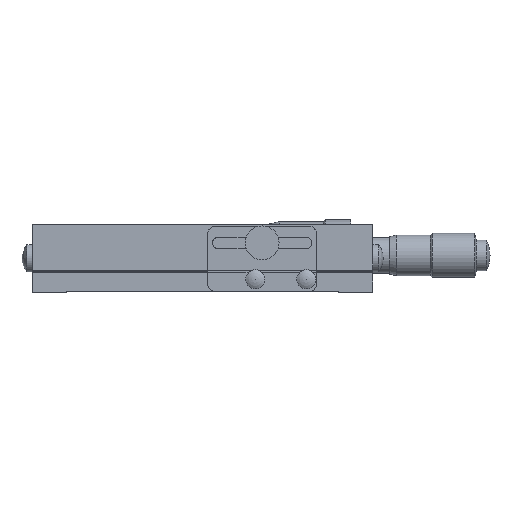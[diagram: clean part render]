
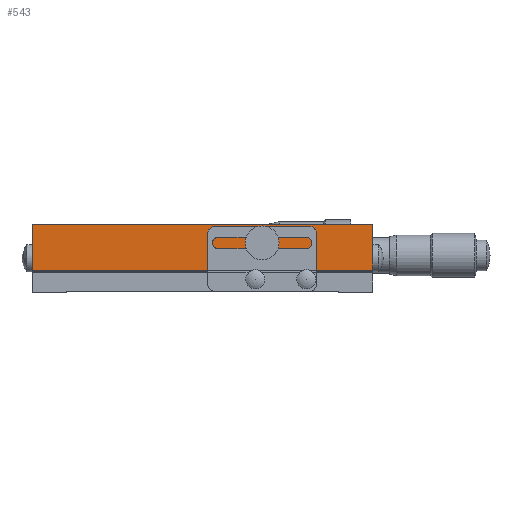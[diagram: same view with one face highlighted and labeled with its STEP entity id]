
A CAD part, front view. The second image highlights one B-rep face of the part: STEP entity #543.
In plain terms, the highlighted planar face has unit normal (0, -1, 0).
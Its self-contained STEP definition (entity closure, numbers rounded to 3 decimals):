
#543 = ADVANCED_FACE( '', ( #1200, #1201 ), #1202, .T. );
#1200 = FACE_OUTER_BOUND( '', #1893, .T. );
#1201 = FACE_BOUND( '', #1894, .T. );
#1202 = PLANE( '', #1895 );
#1893 = EDGE_LOOP( '', ( #3251, #3252, #3253, #3254 ) );
#1894 = EDGE_LOOP( '', ( #3255 ) );
#1895 = AXIS2_PLACEMENT_3D( '', #3256, #3257, #3258 );
#3251 = ORIENTED_EDGE( '', *, *, #3807, .T. );
#3252 = ORIENTED_EDGE( '', *, *, #3992, .T. );
#3253 = ORIENTED_EDGE( '', *, *, #3840, .T. );
#3254 = ORIENTED_EDGE( '', *, *, #3681, .F. );
#3255 = ORIENTED_EDGE( '', *, *, #3812, .F. );
#3256 = CARTESIAN_POINT( '', ( 0., -50., 6.5 ) );
#3257 = DIRECTION( '', ( 0., -1., 0. ) );
#3258 = DIRECTION( '', ( 0., 0., 1. ) );
#3681 = EDGE_CURVE( '', #4389, #4391, #4392, .T. );
#3807 = EDGE_CURVE( '', #4389, #4576, #4579, .T. );
#3812 = EDGE_CURVE( '', #4585, #4585, #4586, .T. );
#3840 = EDGE_CURVE( '', #4629, #4391, #4631, .T. );
#3992 = EDGE_CURVE( '', #4576, #4629, #4825, .T. );
#4389 = VERTEX_POINT( '', #5347 );
#4391 = VERTEX_POINT( '', #5350 );
#4392 = LINE( '', #5351, #5352 );
#4576 = VERTEX_POINT( '', #5607 );
#4579 = LINE( '', #5611, #5612 );
#4585 = VERTEX_POINT( '', #5619 );
#4586 = CIRCLE( '', #5620, 1.5 );
#4629 = VERTEX_POINT( '', #5666 );
#4631 = LINE( '', #5669, #5670 );
#4825 = LINE( '', #5915, #5916 );
#5347 = CARTESIAN_POINT( '', ( -50., -50., 6.5 ) );
#5350 = CARTESIAN_POINT( '', ( -50., -50., 20. ) );
#5351 = CARTESIAN_POINT( '', ( -50., -50., 6.5 ) );
#5352 = VECTOR( '', #6221, 1000. );
#5607 = CARTESIAN_POINT( '', ( 50., -50., 6.5 ) );
#5611 = CARTESIAN_POINT( '', ( 0., -50., 6.5 ) );
#5612 = VECTOR( '', #6373, 1000. );
#5619 = CARTESIAN_POINT( '', ( 17.5, -50., 16. ) );
#5620 = AXIS2_PLACEMENT_3D( '', #6378, #6379, #6380 );
#5666 = CARTESIAN_POINT( '', ( 50., -50., 20. ) );
#5669 = CARTESIAN_POINT( '', ( 0., -50., 20. ) );
#5670 = VECTOR( '', #6430, 1000. );
#5915 = CARTESIAN_POINT( '', ( 50., -50., 6.5 ) );
#5916 = VECTOR( '', #6569, 1000. );
#6221 = DIRECTION( '', ( 0., 0., 1. ) );
#6373 = DIRECTION( '', ( 1., 0., 0. ) );
#6378 = CARTESIAN_POINT( '', ( 17.5, -50., 14.5 ) );
#6379 = DIRECTION( '', ( 0., -1., 0. ) );
#6380 = DIRECTION( '', ( 0., 0., 1. ) );
#6430 = DIRECTION( '', ( -1., 0., 0. ) );
#6569 = DIRECTION( '', ( 0., 0., 1. ) );
